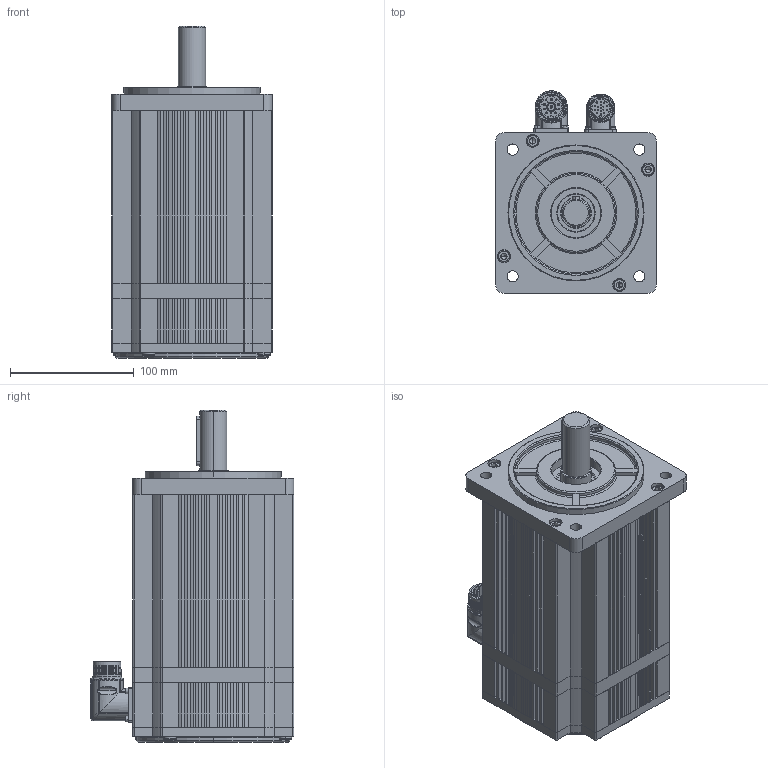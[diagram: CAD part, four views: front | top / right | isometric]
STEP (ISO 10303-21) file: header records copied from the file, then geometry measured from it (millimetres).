
FILE_DESCRIPTION (( 'STEP AP214' ), '1' );
FILE_NAME ('SMC130D-0300-20MAK-5HSP.STEP', '2022-09-14T06:09:28', ( '' ), ( '' ), 'SwSTEP 2.0', 'SolidWorks 2018', '' );
FILE_SCHEMA (( 'AUTOMOTIVE_DESIGN' ));
Length unit declared in the file: millimetre
Products named in the file (12): SMC130D-0300-20MAK-5HSP; 鎢攫欶褲极; hexagon socket head cap screws gb_GB_FASTENER_SCREWS_HSHCS M2.5X8-N; hexagon socket head cap screws gb_GB_FASTENER_SCREWS_HSHCS M6X20-N; hexagon socket head cap screws gb_GB_FASTENER_SCREWS_HSHCS M6X55-N; 鎢攫欶綴裔; ヶ傷裔; ぱ籵A倰瑩; 郋弊莉萇埭菁釱; 綴傷裔; 郋弊莉陓瘍菁釱; 儂褲
Assembly tree (24 placements, depth 2):
  SMC130D-0300-20MAK-5HSP
    ヶ傷裔
    儂褲
    綴傷裔
    鎢攫欶褲极
    鎢攫欶綴裔
    郋弊莉萇埭菁釱
    郋弊莉陓瘍菁釱
    hexagon socket head cap screws gb_GB_FASTENER_SCREWS_HSHCS M2.5X8-N  x8
    hexagon socket head cap screws gb_GB_FASTENER_SCREWS_HSHCS M6X55-N  x4
    ぱ籵A倰瑩
    hexagon socket head cap screws gb_GB_FASTENER_SCREWS_HSHCS M6X20-N  x4
Bounding box: 130 x 164.5 x 268.5 mm (x, y, z)
Volume: 3220111.9 mm3; surface area: 360242 mm2
Topology: 48 solids, 48 shells, 1859 faces, 4699 edges, 2975 vertices
Faces by surface type: plane 842, cylinder 778, cone 90, torus 90, sphere 46, bspline 13
Entity records: 59096 total; most frequent: CARTESIAN_POINT 10417, DIRECTION 8403, ORIENTED_EDGE 7714, EDGE_CURVE 3857, AXIS2_PLACEMENT_3D 3146, VERTEX_POINT 2500, VECTOR 2111, LINE 2111
